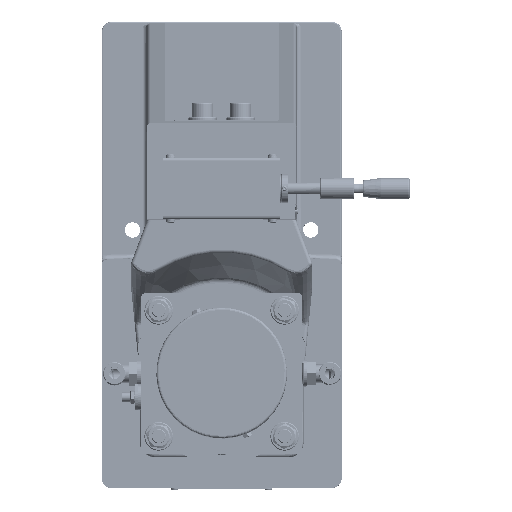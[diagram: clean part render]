
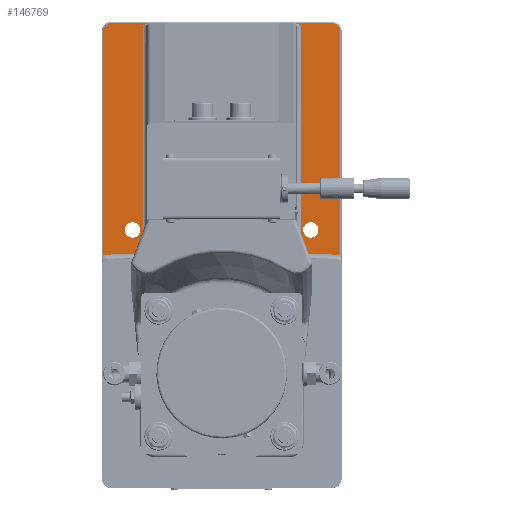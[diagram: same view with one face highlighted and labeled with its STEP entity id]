
A CAD part, top view. The second image highlights one B-rep face of the part: STEP entity #146769.
In plain terms, the highlighted planar face has unit normal (0, 0, 1).
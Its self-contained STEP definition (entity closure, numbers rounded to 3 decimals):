
#9075=LINE('',#214412,#23072);
#9206=LINE('',#215470,#23203);
#9207=LINE('',#215552,#23204);
#9209=LINE('',#215554,#23206);
#9211=LINE('',#215566,#23208);
#9228=LINE('',#215695,#23225);
#9229=LINE('',#215696,#23226);
#9230=LINE('',#215700,#23227);
#9231=LINE('',#215703,#23228);
#23072=VECTOR('',#171342,183.48);
#23203=VECTOR('',#171975,188.744);
#23204=VECTOR('',#171988,31.61);
#23206=VECTOR('',#171990,31.61);
#23208=VECTOR('',#172004,188.744);
#23225=VECTOR('',#172039,133.);
#23226=VECTOR('',#172040,183.48);
#23227=VECTOR('',#172043,96.075);
#23228=VECTOR('',#172046,96.075);
#31845=B_SPLINE_CURVE_WITH_KNOTS('',3,(#214284,#214285,#214286,#214287,
#214288,#214289,#214290,#214291),.UNSPECIFIED.,.F.,.F.,(4,2,2,4),(-0.001,
0.,0.358,0.52),.UNSPECIFIED.);
#31847=B_SPLINE_CURVE_WITH_KNOTS('',3,(#214346,#214347,#214348,#214349,
#214350,#214351,#214352,#214353,#214354,#214355),.UNSPECIFIED.,.F.,.F.,
(4,2,2,2,4),(0.,0.162,0.37,0.581,0.582),
 .UNSPECIFIED.);
#36161=FACE_BOUND('',#48570,.T.);
#36162=FACE_BOUND('',#48571,.T.);
#40408=FACE_OUTER_BOUND('',#48569,.T.);
#48569=EDGE_LOOP('',(#107297,#107298,#107299,#107300,#107301,#107302,#107303,
#107304,#107305,#107306,#107307,#107308,#107309,#107310,#107311,#107312));
#48570=EDGE_LOOP('',(#107313));
#48571=EDGE_LOOP('',(#107314));
#55114=CIRCLE('',#154662,7.);
#55118=CIRCLE('',#154668,7.);
#55121=CIRCLE('',#154674,9.);
#55126=CIRCLE('',#154681,9.);
#55127=CIRCLE('',#154682,9.);
#55128=CIRCLE('',#154683,6.5);
#55129=CIRCLE('',#154684,6.5);
#61785=VERTEX_POINT('',#214282);
#61786=VERTEX_POINT('',#214283);
#61790=VERTEX_POINT('',#214301);
#61792=VERTEX_POINT('',#214345);
#61793=VERTEX_POINT('',#214399);
#61920=VERTEX_POINT('',#215463);
#61923=VERTEX_POINT('',#215468);
#61926=VERTEX_POINT('',#215544);
#61928=VERTEX_POINT('',#215550);
#61930=VERTEX_POINT('',#215558);
#61932=VERTEX_POINT('',#215564);
#61946=VERTEX_POINT('',#215680);
#61951=VERTEX_POINT('',#215694);
#61952=VERTEX_POINT('',#215697);
#61953=VERTEX_POINT('',#215699);
#61954=VERTEX_POINT('',#215701);
#61955=VERTEX_POINT('',#215704);
#61956=VERTEX_POINT('',#215706);
#78205=EDGE_CURVE('',#61785,#61786,#31845,.T.);
#78218=EDGE_CURVE('',#61792,#61790,#31847,.F.);
#78222=EDGE_CURVE('',#61793,#61792,#9075,.T.);
#78482=EDGE_CURVE('',#61923,#61920,#9206,.T.);
#78486=EDGE_CURVE('',#61926,#61923,#55114,.T.);
#78489=EDGE_CURVE('',#61928,#61786,#9207,.T.);
#78491=EDGE_CURVE('',#61790,#61926,#9209,.T.);
#78494=EDGE_CURVE('',#61930,#61928,#55118,.T.);
#78497=EDGE_CURVE('',#61932,#61930,#9211,.T.);
#78514=EDGE_CURVE('',#61920,#61946,#55121,.T.);
#78521=EDGE_CURVE('',#61951,#61793,#9228,.T.);
#78522=EDGE_CURVE('',#61785,#61951,#9229,.T.);
#78523=EDGE_CURVE('',#61952,#61932,#55126,.T.);
#78524=EDGE_CURVE('',#61953,#61952,#9230,.T.);
#78525=EDGE_CURVE('',#61954,#61953,#55127,.T.);
#78526=EDGE_CURVE('',#61946,#61954,#9231,.T.);
#78527=EDGE_CURVE('',#61955,#61955,#55128,.T.);
#78528=EDGE_CURVE('',#61956,#61956,#55129,.T.);
#107297=ORIENTED_EDGE('',*,*,#78482,.F.);
#107298=ORIENTED_EDGE('',*,*,#78486,.F.);
#107299=ORIENTED_EDGE('',*,*,#78491,.F.);
#107300=ORIENTED_EDGE('',*,*,#78218,.F.);
#107301=ORIENTED_EDGE('',*,*,#78222,.F.);
#107302=ORIENTED_EDGE('',*,*,#78521,.F.);
#107303=ORIENTED_EDGE('',*,*,#78522,.F.);
#107304=ORIENTED_EDGE('',*,*,#78205,.T.);
#107305=ORIENTED_EDGE('',*,*,#78489,.F.);
#107306=ORIENTED_EDGE('',*,*,#78494,.F.);
#107307=ORIENTED_EDGE('',*,*,#78497,.F.);
#107308=ORIENTED_EDGE('',*,*,#78523,.F.);
#107309=ORIENTED_EDGE('',*,*,#78524,.F.);
#107310=ORIENTED_EDGE('',*,*,#78525,.F.);
#107311=ORIENTED_EDGE('',*,*,#78526,.F.);
#107312=ORIENTED_EDGE('',*,*,#78514,.F.);
#107313=ORIENTED_EDGE('',*,*,#78527,.T.);
#107314=ORIENTED_EDGE('',*,*,#78528,.T.);
#133095=PLANE('',#154680);
#146769=ADVANCED_FACE('',(#40408,#36161,#36162),#133095,.T.);
#154662=AXIS2_PLACEMENT_3D('',#215546,#171980,#171981);
#154668=AXIS2_PLACEMENT_3D('',#215560,#171996,#171997);
#154674=AXIS2_PLACEMENT_3D('',#215681,#172023,#172024);
#154680=AXIS2_PLACEMENT_3D('',#215693,#172037,#172038);
#154681=AXIS2_PLACEMENT_3D('',#215698,#172041,#172042);
#154682=AXIS2_PLACEMENT_3D('',#215702,#172044,#172045);
#154683=AXIS2_PLACEMENT_3D('',#215705,#172047,#172048);
#154684=AXIS2_PLACEMENT_3D('',#215707,#172049,#172050);
#171342=DIRECTION('',(0.,1.,0.));
#171975=DIRECTION('',(0.,-1.,0.));
#171980=DIRECTION('center_axis',(0.,0.,
-1.));
#171981=DIRECTION('ref_axis',(0.707,0.707,0.));
#171988=DIRECTION('',(1.,0.,0.));
#171990=DIRECTION('',(1.,0.,0.));
#171996=DIRECTION('center_axis',(0.,0.,
-1.));
#171997=DIRECTION('ref_axis',(-0.707,0.707,0.));
#172004=DIRECTION('',(0.,1.,0.));
#172023=DIRECTION('center_axis',(0.,0.,
1.));
#172024=DIRECTION('ref_axis',(0.721,0.693,0.));
#172037=DIRECTION('center_axis',(0.,0.,
1.));
#172038=DIRECTION('ref_axis',(1.,0.,0.));
#172039=DIRECTION('',(1.,0.,0.));
#172040=DIRECTION('',(0.,-1.,0.));
#172041=DIRECTION('center_axis',(0.,0.,
1.));
#172042=DIRECTION('ref_axis',(-0.721,0.693,0.));
#172043=DIRECTION('',(-0.999,-0.04,0.));
#172044=DIRECTION('center_axis',(0.,0.,
1.));
#172045=DIRECTION('ref_axis',(0.,1.,0.));
#172046=DIRECTION('',(-0.999,0.04,0.));
#172047=DIRECTION('center_axis',(0.,0.,
-1.));
#172048=DIRECTION('ref_axis',(1.,0.,0.));
#172049=DIRECTION('center_axis',(0.,0.,
-1.));
#172050=DIRECTION('ref_axis',(1.,0.,0.));
#214282=CARTESIAN_POINT('',(-66.5,195.98,47.));
#214283=CARTESIAN_POINT('',(-61.39,198.5,47.));
#214284=CARTESIAN_POINT('Ctrl Pts',(-66.5,195.98,47.));
#214285=CARTESIAN_POINT('Ctrl Pts',(-66.497,195.982,
47.));
#214286=CARTESIAN_POINT('Ctrl Pts',(-66.495,195.985,
47.));
#214287=CARTESIAN_POINT('Ctrl Pts',(-65.615,196.799,
47.));
#214288=CARTESIAN_POINT('Ctrl Pts',(-64.539,197.685,
47.));
#214289=CARTESIAN_POINT('Ctrl Pts',(-62.635,198.376,
47.));
#214290=CARTESIAN_POINT('Ctrl Pts',(-62.017,198.5,47.));
#214291=CARTESIAN_POINT('Ctrl Pts',(-61.39,198.5,47.));
#214301=CARTESIAN_POINT('',(61.39,198.5,47.));
#214345=CARTESIAN_POINT('',(66.5,195.98,47.));
#214346=CARTESIAN_POINT('Ctrl Pts',(61.39,198.5,47.));
#214347=CARTESIAN_POINT('Ctrl Pts',(61.931,198.5,47.));
#214348=CARTESIAN_POINT('Ctrl Pts',(62.467,198.408,47.));
#214349=CARTESIAN_POINT('Ctrl Pts',(63.645,198.035,47.));
#214350=CARTESIAN_POINT('Ctrl Pts',(64.262,197.715,47.));
#214351=CARTESIAN_POINT('Ctrl Pts',(65.431,196.93,47.));
#214352=CARTESIAN_POINT('Ctrl Pts',(65.965,196.475,47.));
#214353=CARTESIAN_POINT('Ctrl Pts',(66.495,195.985,47.));
#214354=CARTESIAN_POINT('Ctrl Pts',(66.497,195.982,47.));
#214355=CARTESIAN_POINT('Ctrl Pts',(66.5,195.98,47.));
#214399=CARTESIAN_POINT('',(66.5,12.5,47.));
#214412=CARTESIAN_POINT('',(66.5,23.,47.));
#215463=CARTESIAN_POINT('',(100.,2.756,47.));
#215468=CARTESIAN_POINT('',(100.,191.5,47.));
#215470=CARTESIAN_POINT('',(100.,101.5,47.));
#215544=CARTESIAN_POINT('',(93.,198.5,47.));
#215546=CARTESIAN_POINT('Origin',(93.,191.5,47.));
#215550=CARTESIAN_POINT('',(-93.,198.5,47.));
#215552=CARTESIAN_POINT('',(31.5,198.5,47.));
#215554=CARTESIAN_POINT('',(31.5,198.5,47.));
#215558=CARTESIAN_POINT('',(-100.,191.5,47.));
#215560=CARTESIAN_POINT('Origin',(-93.,191.5,47.));
#215564=CARTESIAN_POINT('',(-100.,2.756,47.));
#215566=CARTESIAN_POINT('',(-100.,-94.5,47.));
#215680=CARTESIAN_POINT('',(96.356,3.687,47.));
#215681=CARTESIAN_POINT('Origin',(96.,-5.306,47.));
#215693=CARTESIAN_POINT('Origin',(0.,3.5,
47.));
#215694=CARTESIAN_POINT('',(-66.5,12.5,47.));
#215695=CARTESIAN_POINT('',(-31.5,12.5,47.));
#215696=CARTESIAN_POINT('',(-66.5,101.,47.));
#215697=CARTESIAN_POINT('',(-96.356,3.687,47.));
#215698=CARTESIAN_POINT('Origin',(-96.,-5.306,47.));
#215699=CARTESIAN_POINT('',(-0.356,7.489,47.));
#215700=CARTESIAN_POINT('',(-50.658,5.497,47.));
#215701=CARTESIAN_POINT('',(0.356,7.489,47.));
#215702=CARTESIAN_POINT('Origin',(0.,-1.504,
47.));
#215703=CARTESIAN_POINT('',(0.158,7.497,47.));
#215704=CARTESIAN_POINT('',(-68.5,24.5,47.));
#215705=CARTESIAN_POINT('Origin',(-75.,24.5,47.));
#215706=CARTESIAN_POINT('',(81.5,24.5,47.));
#215707=CARTESIAN_POINT('Origin',(75.,24.5,47.));
